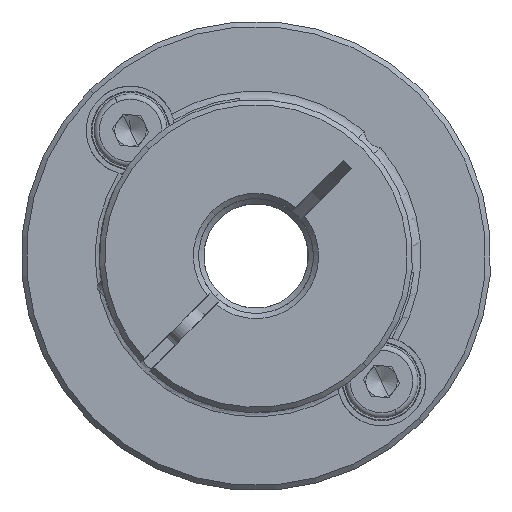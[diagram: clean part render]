
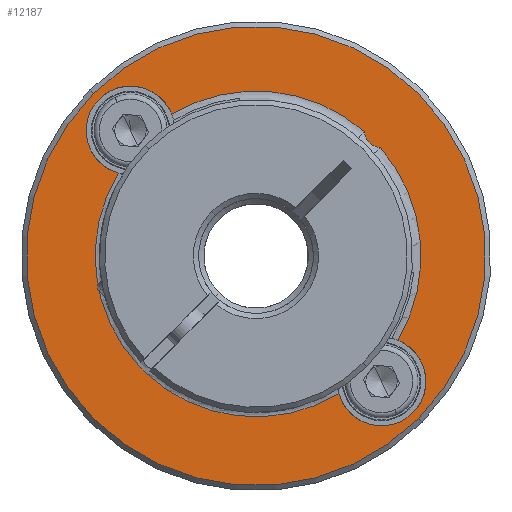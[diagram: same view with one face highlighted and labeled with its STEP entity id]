
A CAD part, front view. The second image highlights one B-rep face of the part: STEP entity #12187.
In plain terms, the highlighted planar face has unit normal (0, -1, 0).
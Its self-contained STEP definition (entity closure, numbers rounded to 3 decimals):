
#71 = CARTESIAN_POINT ( 'NONE',  ( -13.688, 21.413, 33.299 ) ) ;
#88 = CARTESIAN_POINT ( 'NONE',  ( 9.49, 21.413, 55.935 ) ) ;
#261 = CIRCLE ( 'NONE', #6756, 4.25 ) ;
#399 = B_SPLINE_CURVE_WITH_KNOTS ( 'NONE', 3,
 ( #8546, #9594, #11422, #2852 ),
 .UNSPECIFIED., .F., .F.,
 ( 4, 4 ),
 ( 0., 1. ),
 .UNSPECIFIED. ) ;
#631 = DIRECTION ( 'NONE',  ( 0., 1., 0. ) ) ;
#694 = DIRECTION ( 'NONE',  ( 0.145, 0., -0.989 ) ) ;
#929 = DIRECTION ( 'NONE',  ( 1., 0., 0. ) ) ;
#948 = CIRCLE ( 'NONE', #11418, 22. ) ;
#1052 = CARTESIAN_POINT ( 'NONE',  ( 7.843, 21.413, 55.831 ) ) ;
#1441 = VERTEX_POINT ( 'NONE', #9721 ) ;
#1460 = EDGE_CURVE ( 'NONE', #8263, #1777, #7779, .T. ) ;
#1522 = ORIENTED_EDGE ( 'NONE', *, *, #2074, .T. ) ;
#1653 = CARTESIAN_POINT ( 'NONE',  ( 9.49, 21.413, 55.935 ) ) ;
#1664 = ORIENTED_EDGE ( 'NONE', *, *, #11553, .T. ) ;
#1777 = VERTEX_POINT ( 'NONE', #3598 ) ;
#2021 = DIRECTION ( 'NONE',  ( 0., 1., 0. ) ) ;
#2074 = EDGE_CURVE ( 'NONE', #8808, #7182, #261, .T. ) ;
#2076 = ORIENTED_EDGE ( 'NONE', *, *, #7984, .T. ) ;
#2155 = DIRECTION ( 'NONE',  ( 0., 1., 0. ) ) ;
#2202 = ORIENTED_EDGE ( 'NONE', *, *, #4435, .T. ) ;
#2315 = DIRECTION ( 'NONE',  ( 0., 1., 0. ) ) ;
#2333 = CIRCLE ( 'NONE', #9115, 4.25 ) ;
#2550 = VERTEX_POINT ( 'NONE', #5535 ) ;
#2847 = AXIS2_PLACEMENT_3D ( 'NONE', #1653, #8411, #694 ) ;
#2852 = CARTESIAN_POINT ( 'NONE',  ( -13.688, 21.413, 33.299 ) ) ;
#2972 = CARTESIAN_POINT ( 'NONE',  ( -17.557, 21.413, 58.94 ) ) ;
#3055 = AXIS2_PLACEMENT_3D ( 'NONE', #3578, #7457, #5460 ) ;
#3083 = ORIENTED_EDGE ( 'NONE', *, *, #1460, .T. ) ;
#3141 = ORIENTED_EDGE ( 'NONE', *, *, #12105, .T. ) ;
#3255 = CARTESIAN_POINT ( 'NONE',  ( -14.552, 21.413, 55.935 ) ) ;
#3271 = CARTESIAN_POINT ( 'NONE',  ( -2.531, 21.413, 43.914 ) ) ;
#3368 = DIRECTION ( 'NONE',  ( -0.707, 0., 0.707 ) ) ;
#3578 = CARTESIAN_POINT ( 'NONE',  ( 9.49, 21.413, 31.893 ) ) ;
#3598 = CARTESIAN_POINT ( 'NONE',  ( 11.054, 21.413, 35.845 ) ) ;
#3614 = VERTEX_POINT ( 'NONE', #6463 ) ;
#3750 = EDGE_CURVE ( 'NONE', #6219, #9789, #399, .T. ) ;
#3993 = DIRECTION ( 'NONE',  ( 0., -1., 0. ) ) ;
#4420 = DIRECTION ( 'NONE',  ( 0., 1., 0. ) ) ;
#4435 = EDGE_CURVE ( 'NONE', #2550, #6897, #10287, .T. ) ;
#4437 = ORIENTED_EDGE ( 'NONE', *, *, #3750, .T. ) ;
#4608 = PLANE ( 'NONE',  #2847 ) ;
#4682 = ORIENTED_EDGE ( 'NONE', *, *, #11592, .T. ) ;
#4875 = FACE_OUTER_BOUND ( 'NONE', #5189, .T. ) ;
#4917 = ORIENTED_EDGE ( 'NONE', *, *, #8588, .T. ) ;
#5189 = EDGE_LOOP ( 'NONE', ( #2202, #3141 ) ) ;
#5217 = ORIENTED_EDGE ( 'NONE', *, *, #10805, .T. ) ;
#5230 = DIRECTION ( 'NONE',  ( -0.707, 0., 0.707 ) ) ;
#5302 = CARTESIAN_POINT ( 'NONE',  ( 9.49, 21.413, 31.893 ) ) ;
#5404 = CARTESIAN_POINT ( 'NONE',  ( -2.531, 21.413, 43.914 ) ) ;
#5460 = DIRECTION ( 'NONE',  ( -0.707, 0., 0.707 ) ) ;
#5515 = EDGE_CURVE ( 'NONE', #11249, #8263, #6212, .T. ) ;
#5535 = CARTESIAN_POINT ( 'NONE',  ( 13.026, 21.413, 28.358 ) ) ;
#5568 = DIRECTION ( 'NONE',  ( 0., 1., 0. ) ) ;
#5787 = EDGE_CURVE ( 'NONE', #3614, #6219, #6230, .T. ) ;
#5958 = CARTESIAN_POINT ( 'NONE',  ( 9.386, 21.413, 54.288 ) ) ;
#6212 = CIRCLE ( 'NONE', #7504, 1.65 ) ;
#6219 = VERTEX_POINT ( 'NONE', #10485 ) ;
#6230 = CIRCLE ( 'NONE', #12163, 15.4 ) ;
#6341 = DIRECTION ( 'NONE',  ( -0.707, 0., 0.707 ) ) ;
#6463 = CARTESIAN_POINT ( 'NONE',  ( 5.406, 21.413, 30.717 ) ) ;
#6756 = AXIS2_PLACEMENT_3D ( 'NONE', #3255, #2315, #8066 ) ;
#6833 = AXIS2_PLACEMENT_3D ( 'NONE', #8534, #5568, #7442 ) ;
#6897 = VERTEX_POINT ( 'NONE', #10880 ) ;
#7011 = EDGE_LOOP ( 'NONE', ( #10472, #3083, #1664, #2076, #8061, #4437, #4682, #1522, #5217, #4917 ) ) ;
#7182 = VERTEX_POINT ( 'NONE', #2972 ) ;
#7442 = DIRECTION ( 'NONE',  ( -0.707, 0., 0.707 ) ) ;
#7456 = DIRECTION ( 'NONE',  ( -0.707, 0., 0.707 ) ) ;
#7457 = DIRECTION ( 'NONE',  ( 0., 1., 0. ) ) ;
#7464 = DIRECTION ( 'NONE',  ( -0.707, 0., 0.707 ) ) ;
#7504 = AXIS2_PLACEMENT_3D ( 'NONE', #88, #12409, #929 ) ;
#7676 = VERTEX_POINT ( 'NONE', #11656 ) ;
#7743 = CIRCLE ( 'NONE', #9832, 4.25 ) ;
#7779 = CIRCLE ( 'NONE', #9885, 15.8 ) ;
#7984 = EDGE_CURVE ( 'NONE', #7676, #3614, #9778, .T. ) ;
#8061 = ORIENTED_EDGE ( 'NONE', *, *, #5787, .T. ) ;
#8066 = DIRECTION ( 'NONE',  ( -0.707, 0., 0.707 ) ) ;
#8263 = VERTEX_POINT ( 'NONE', #5958 ) ;
#8347 = CARTESIAN_POINT ( 'NONE',  ( -2.531, 21.413, 43.914 ) ) ;
#8411 = DIRECTION ( 'NONE',  ( 0., -1., 0. ) ) ;
#8534 = CARTESIAN_POINT ( 'NONE',  ( -2.531, 21.413, 43.914 ) ) ;
#8546 = CARTESIAN_POINT ( 'NONE',  ( -13.145, 21.413, 32.757 ) ) ;
#8588 = EDGE_CURVE ( 'NONE', #1441, #11249, #11862, .T. ) ;
#8808 = VERTEX_POINT ( 'NONE', #11665 ) ;
#9115 = AXIS2_PLACEMENT_3D ( 'NONE', #5302, #4420, #6341 ) ;
#9222 = DIRECTION ( 'NONE',  ( 0., -1., 0. ) ) ;
#9239 = CARTESIAN_POINT ( 'NONE',  ( -2.531, 21.413, 43.914 ) ) ;
#9505 = AXIS2_PLACEMENT_3D ( 'NONE', #9745, #3993, #10688 ) ;
#9594 = CARTESIAN_POINT ( 'NONE',  ( -13.283, 21.413, 32.981 ) ) ;
#9660 = FACE_BOUND ( 'NONE', #7011, .T. ) ;
#9713 = DIRECTION ( 'NONE',  ( -0.707, 0., 0.707 ) ) ;
#9721 = CARTESIAN_POINT ( 'NONE',  ( -10.6, 21.413, 57.498 ) ) ;
#9745 = CARTESIAN_POINT ( 'NONE',  ( -2.531, 21.413, 43.914 ) ) ;
#9760 = AXIS2_PLACEMENT_3D ( 'NONE', #9239, #11226, #7456 ) ;
#9778 = CIRCLE ( 'NONE', #3055, 4.25 ) ;
#9789 = VERTEX_POINT ( 'NONE', #71 ) ;
#9832 = AXIS2_PLACEMENT_3D ( 'NONE', #10588, #2021, #9713 ) ;
#9885 = AXIS2_PLACEMENT_3D ( 'NONE', #3271, #2155, #5230 ) ;
#10287 = CIRCLE ( 'NONE', #9505, 22. ) ;
#10472 = ORIENTED_EDGE ( 'NONE', *, *, #5515, .T. ) ;
#10485 = CARTESIAN_POINT ( 'NONE',  ( -13.145, 21.413, 32.757 ) ) ;
#10588 = CARTESIAN_POINT ( 'NONE',  ( -14.552, 21.413, 55.935 ) ) ;
#10688 = DIRECTION ( 'NONE',  ( -0.707, 0., 0.707 ) ) ;
#10805 = EDGE_CURVE ( 'NONE', #7182, #1441, #7743, .T. ) ;
#10862 = CIRCLE ( 'NONE', #9760, 15.4 ) ;
#10880 = CARTESIAN_POINT ( 'NONE',  ( -18.087, 21.413, 59.47 ) ) ;
#11226 = DIRECTION ( 'NONE',  ( 0., 1., 0. ) ) ;
#11249 = VERTEX_POINT ( 'NONE', #1052 ) ;
#11418 = AXIS2_PLACEMENT_3D ( 'NONE', #5404, #9222, #3368 ) ;
#11422 = CARTESIAN_POINT ( 'NONE',  ( -13.464, 21.413, 33.162 ) ) ;
#11553 = EDGE_CURVE ( 'NONE', #1777, #7676, #2333, .T. ) ;
#11592 = EDGE_CURVE ( 'NONE', #9789, #8808, #10862, .T. ) ;
#11656 = CARTESIAN_POINT ( 'NONE',  ( 12.495, 21.413, 28.888 ) ) ;
#11665 = CARTESIAN_POINT ( 'NONE',  ( -15.728, 21.413, 51.851 ) ) ;
#11862 = CIRCLE ( 'NONE', #6833, 15.8 ) ;
#12105 = EDGE_CURVE ( 'NONE', #6897, #2550, #948, .T. ) ;
#12163 = AXIS2_PLACEMENT_3D ( 'NONE', #8347, #631, #7464 ) ;
#12187 = ADVANCED_FACE ( 'NONE', ( #9660, #4875 ), #4608, .T. ) ;
#12409 = DIRECTION ( 'NONE',  ( 0., -1., 0. ) ) ;
